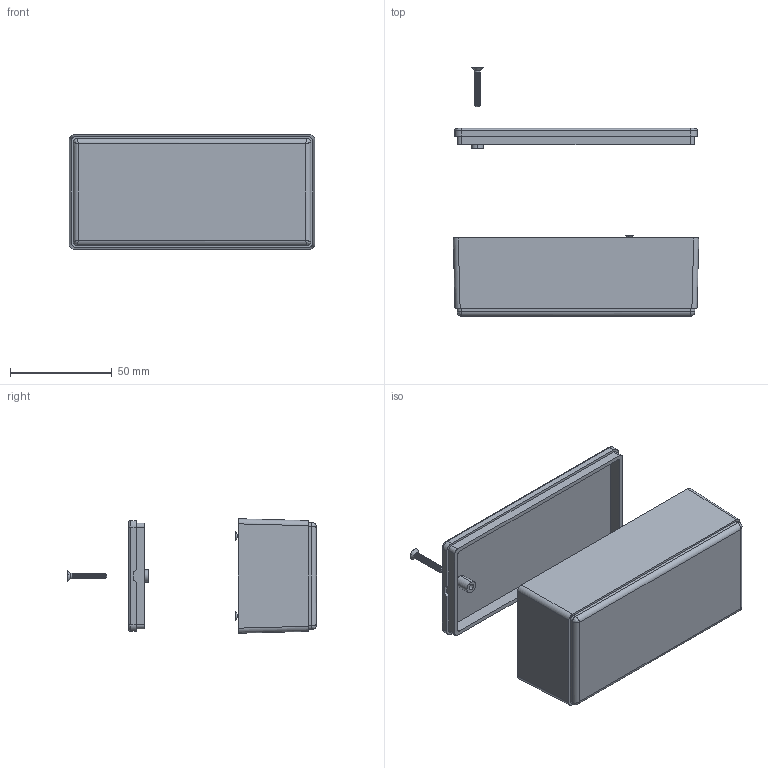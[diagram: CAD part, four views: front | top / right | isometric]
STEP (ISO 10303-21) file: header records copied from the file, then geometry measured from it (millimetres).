
FILE_DESCRIPTION (( 'STEP AP214' ), '1' );
FILE_NAME ('Conjunt PP9.STEP', '2017-07-05T10:06:28', ( 'aaa' ), ( '' ), 'SwSTEP 2.0', 'SolidWorks 2013', '' );
FILE_SCHEMA (( 'AUTOMOTIVE_DESIGN' ));
Length unit declared in the file: millimetre
Products named in the file (5): Tapa PP9; Cos PP9; Conjunt PP9; Cargol 2,1x6,5 PP9; Cargol 2,9x20 PP9
Assembly tree (5 placements, depth 2):
  Conjunt PP9
    Cos PP9
    Tapa PP9
    Cargol 2,9x20 PP9
    Cargol 2,1x6,5 PP9  x2
Bounding box: 120.6 x 122.3 x 56.2 mm (x, y, z)
Volume: 58440.4 mm3; surface area: 56772.6 mm2
Topology: 5 solids, 5 shells, 384 faces, 844 edges, 475 vertices
Faces by surface type: cone 226, plane 90, cylinder 60, bspline 4, torus 4
Entity records: 9196 total; most frequent: CARTESIAN_POINT 1726, DIRECTION 1642, ORIENTED_EDGE 1436, EDGE_CURVE 718, AXIS2_PLACEMENT_3D 614, LINE 414, VECTOR 414, VERTEX_POINT 410
